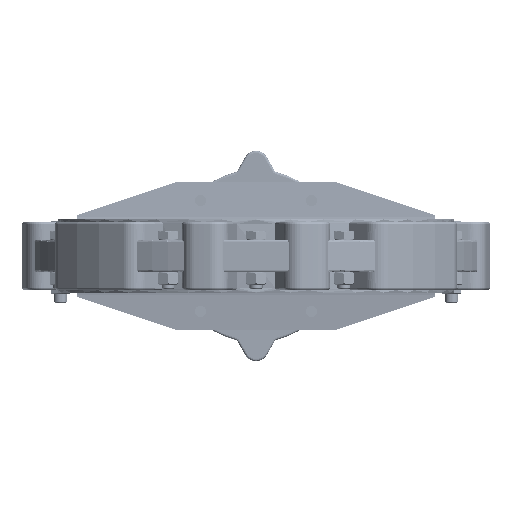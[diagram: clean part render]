
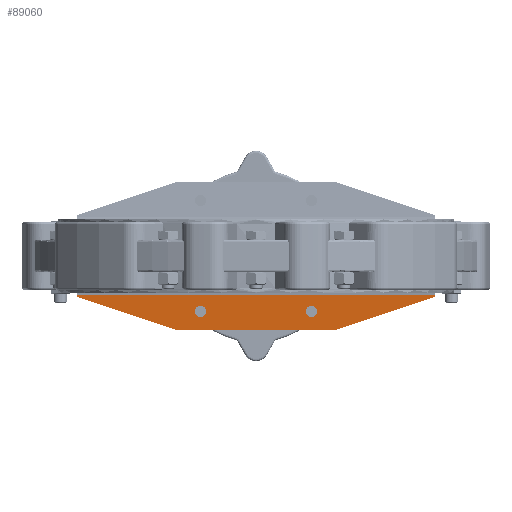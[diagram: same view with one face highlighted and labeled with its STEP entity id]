
A CAD part, front view. The second image highlights one B-rep face of the part: STEP entity #89060.
In plain terms, the highlighted planar face has unit normal (0, -0.998, -0.07).
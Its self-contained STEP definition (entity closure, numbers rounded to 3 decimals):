
#253=ELLIPSE('',#95868,6.934,6.918);
#254=ELLIPSE('',#95869,6.934,6.918);
#255=ELLIPSE('',#95871,6.934,6.918);
#256=ELLIPSE('',#95872,6.934,6.918);
#2597=FACE_BOUND('',#15920,.T.);
#2598=FACE_BOUND('',#15921,.T.);
#4246=PLANE('',#96515);
#10086=FACE_OUTER_BOUND('',#15919,.T.);
#15919=EDGE_LOOP('',(#72518,#72519,#72520,#72521,#72522,#72523));
#15920=EDGE_LOOP('',(#72524,#72525));
#15921=EDGE_LOOP('',(#72526,#72527));
#26317=LINE('',#142479,#32652);
#27108=LINE('',#147873,#33443);
#27172=LINE('',#148223,#33507);
#27173=LINE('',#148226,#33508);
#27176=LINE('',#148232,#33511);
#27185=LINE('',#148263,#33520);
#32652=VECTOR('',#112769,10.);
#33443=VECTOR('',#114136,10.);
#33507=VECTOR('',#114592,10.);
#33508=VECTOR('',#114595,10.);
#33511=VECTOR('',#114602,10.);
#33520=VECTOR('',#114643,10.);
#39792=VERTEX_POINT('',#141100);
#39793=VERTEX_POINT('',#141102);
#39794=VERTEX_POINT('',#141106);
#39795=VERTEX_POINT('',#141108);
#40135=VERTEX_POINT('',#142476);
#40136=VERTEX_POINT('',#142478);
#40826=VERTEX_POINT('',#147870);
#40827=VERTEX_POINT('',#147872);
#40918=VERTEX_POINT('',#148225);
#40919=VERTEX_POINT('',#148231);
#50326=EDGE_CURVE('',#39793,#39792,#253,.T.);
#50327=EDGE_CURVE('',#39792,#39793,#254,.T.);
#50329=EDGE_CURVE('',#39795,#39794,#255,.T.);
#50330=EDGE_CURVE('',#39794,#39795,#256,.T.);
#50734=EDGE_CURVE('',#40135,#40136,#26317,.F.);
#51872=EDGE_CURVE('',#40827,#40826,#27108,.T.);
#52048=EDGE_CURVE('',#40826,#40136,#27172,.T.);
#52049=EDGE_CURVE('',#40827,#40918,#27173,.F.);
#52052=EDGE_CURVE('',#40919,#40918,#27176,.T.);
#52065=EDGE_CURVE('',#40919,#40135,#27185,.T.);
#72518=ORIENTED_EDGE('',*,*,#52065,.F.);
#72519=ORIENTED_EDGE('',*,*,#52052,.T.);
#72520=ORIENTED_EDGE('',*,*,#52049,.F.);
#72521=ORIENTED_EDGE('',*,*,#51872,.T.);
#72522=ORIENTED_EDGE('',*,*,#52048,.T.);
#72523=ORIENTED_EDGE('',*,*,#50734,.F.);
#72524=ORIENTED_EDGE('',*,*,#50326,.T.);
#72525=ORIENTED_EDGE('',*,*,#50327,.T.);
#72526=ORIENTED_EDGE('',*,*,#50329,.T.);
#72527=ORIENTED_EDGE('',*,*,#50330,.T.);
#89060=ADVANCED_FACE('',(#10086,#2597,#2598),#4246,.T.);
#95868=AXIS2_PLACEMENT_3D('',#141103,#112244,#112245);
#95869=AXIS2_PLACEMENT_3D('',#141104,#112246,#112247);
#95871=AXIS2_PLACEMENT_3D('',#141109,#112251,#112252);
#95872=AXIS2_PLACEMENT_3D('',#141110,#112253,#112254);
#96515=AXIS2_PLACEMENT_3D('',#148262,#114641,#114642);
#112244=DIRECTION('center_axis',(0.,0.998,
0.07));
#112245=DIRECTION('ref_axis',(0.,-0.07,
0.998));
#112246=DIRECTION('center_axis',(0.,0.998,
0.07));
#112247=DIRECTION('ref_axis',(0.,-0.07,
0.998));
#112251=DIRECTION('center_axis',(0.,0.998,
0.07));
#112252=DIRECTION('ref_axis',(0.,-0.07,
0.998));
#112253=DIRECTION('center_axis',(0.,0.998,
0.07));
#112254=DIRECTION('ref_axis',(0.,-0.07,
0.998));
#112769=DIRECTION('',(0.,-0.07,0.998));
#114136=DIRECTION('',(1.,0.,0.));
#114592=DIRECTION('',(0.948,-0.022,0.316));
#114595=DIRECTION('',(0.948,0.022,-0.316));
#114602=DIRECTION('',(0.,0.07,-0.998));
#114641=DIRECTION('center_axis',(0.,-0.998,
-0.07));
#114642=DIRECTION('ref_axis',(0.,-0.07,
0.998));
#114643=DIRECTION('',(1.,0.,0.));
#141100=CARTESIAN_POINT('',(74.417,359.427,-67.5));
#141102=CARTESIAN_POINT('',(67.5,359.91,-74.418));
#141103=CARTESIAN_POINT('Origin',(67.5,359.427,-67.5));
#141104=CARTESIAN_POINT('Origin',(67.5,359.427,-67.5));
#141106=CARTESIAN_POINT('',(-60.583,359.427,-67.5));
#141108=CARTESIAN_POINT('',(-67.5,359.91,-74.418));
#141109=CARTESIAN_POINT('Origin',(-67.5,359.427,-67.5));
#141110=CARTESIAN_POINT('Origin',(-67.5,359.427,-67.5));
#142476=CARTESIAN_POINT('',(217.5,357.99,-46.954));
#142478=CARTESIAN_POINT('',(217.5,358.203,-50.));
#142479=CARTESIAN_POINT('',(217.5,358.678,-56.787));
#147870=CARTESIAN_POINT('',(97.5,361.,-90.));
#147872=CARTESIAN_POINT('',(-97.5,361.,-90.));
#147873=CARTESIAN_POINT('',(97.5,361.,-90.));
#148223=CARTESIAN_POINT('',(57.657,361.929,-103.281));
#148225=CARTESIAN_POINT('',(-217.5,358.203,-50.));
#148226=CARTESIAN_POINT('',(-117.628,360.531,-83.291));
#148231=CARTESIAN_POINT('',(-217.5,357.99,-46.954));
#148232=CARTESIAN_POINT('',(-217.5,356.938,-31.908));
#148262=CARTESIAN_POINT('Origin',(0.,359.007,
-61.5));
#148263=CARTESIAN_POINT('',(0.,357.99,-46.954));
